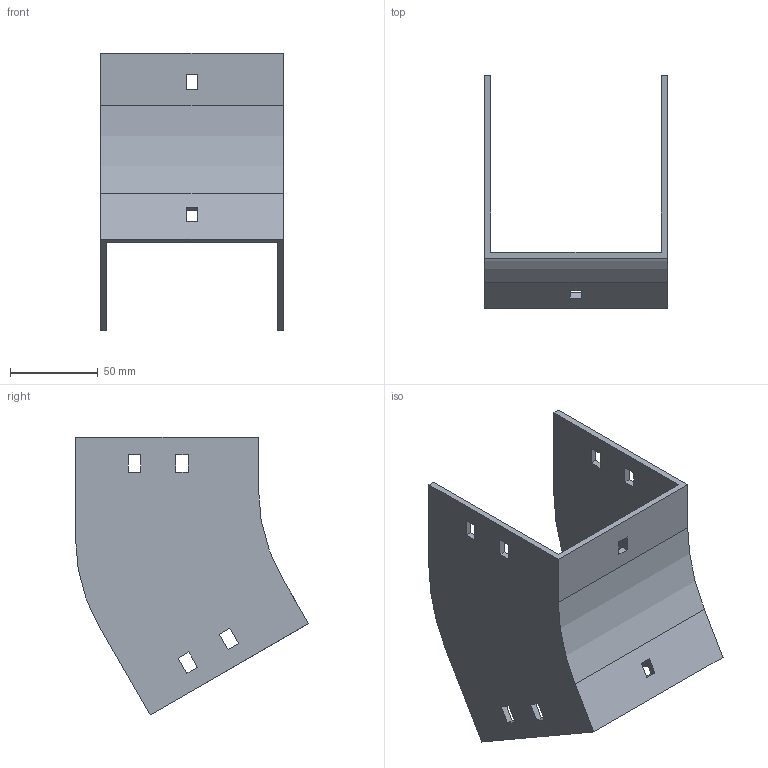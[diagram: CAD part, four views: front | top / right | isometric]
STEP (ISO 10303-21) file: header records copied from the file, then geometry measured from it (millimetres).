
FILE_DESCRIPTION (( 'STEP AP214' ), '1' );
FILE_NAME ('35F1D100.step', '2025-02-21T12:48:46', ( '' ), ( '' ), 'SwSTEP 2.0', 'SolidWorks 2023', '' );
FILE_SCHEMA (( 'AUTOMOTIVE_DESIGN' ));
Length unit declared in the file: millimetre
Products named in the file (1): 35F1D100
Bounding box: 104 x 132.4 x 157.98 mm (x, y, z)
Volume: 139068.1 mm3; surface area: 83941.7 mm2
Topology: 1 solids, 1 shells, 58 faces, 168 edges, 112 vertices
Faces by surface type: plane 54, cylinder 4
Entity records: 1943 total; most frequent: CARTESIAN_POINT 339, ORIENTED_EDGE 336, DIRECTION 294, EDGE_CURVE 168, VECTOR 160, LINE 160, VERTEX_POINT 112, EDGE_LOOP 78
